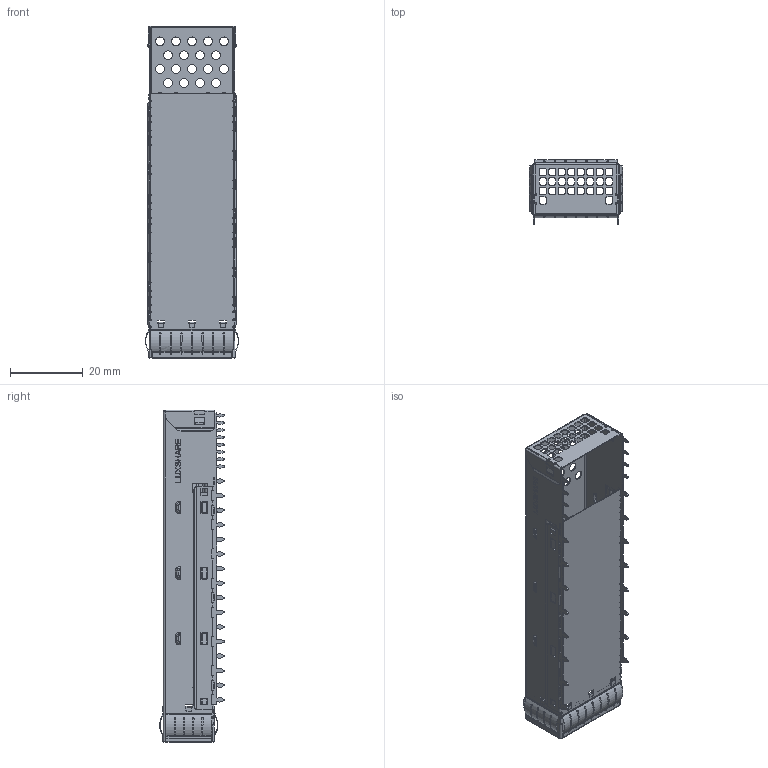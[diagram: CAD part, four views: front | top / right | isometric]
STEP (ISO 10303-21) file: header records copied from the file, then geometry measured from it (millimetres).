
FILE_DESCRIPTION((''),'2;1');
FILE_NAME('OSFP_CAGE_1X1_UPPER_S2_19061301','2026-06-26T18:09:41',('39002408'),(''),'CREO PARAMETRIC BY PTC INC, 2019471','CREO PARAMETRIC BY PTC INC, 2019471','');
FILE_SCHEMA(('CONFIG_CONTROL_DESIGN'));
Length unit declared in the file: millimetre
Products named in the file (1): OSFP_CAGE_1X1_UPPER_S2_19061301
Bounding box: 25.52 x 17.72 x 91.08 mm (x, y, z)
Volume: 1890.4 mm3; surface area: 16702.3 mm2
Topology: 1 solids, 1 shells, 3004 faces, 8235 edges, 5087 vertices
Faces by surface type: plane 1538, cylinder 1139, bspline 275, cone 24, extrusion 16, torus 12
Entity records: 103834 total; most frequent: CARTESIAN_POINT 27825, ORIENTED_EDGE 16470, DIRECTION 15132, EDGE_CURVE 8235, VECTOR 5488, LINE 5472, VERTEX_POINT 5087, AXIS2_PLACEMENT_3D 4822
